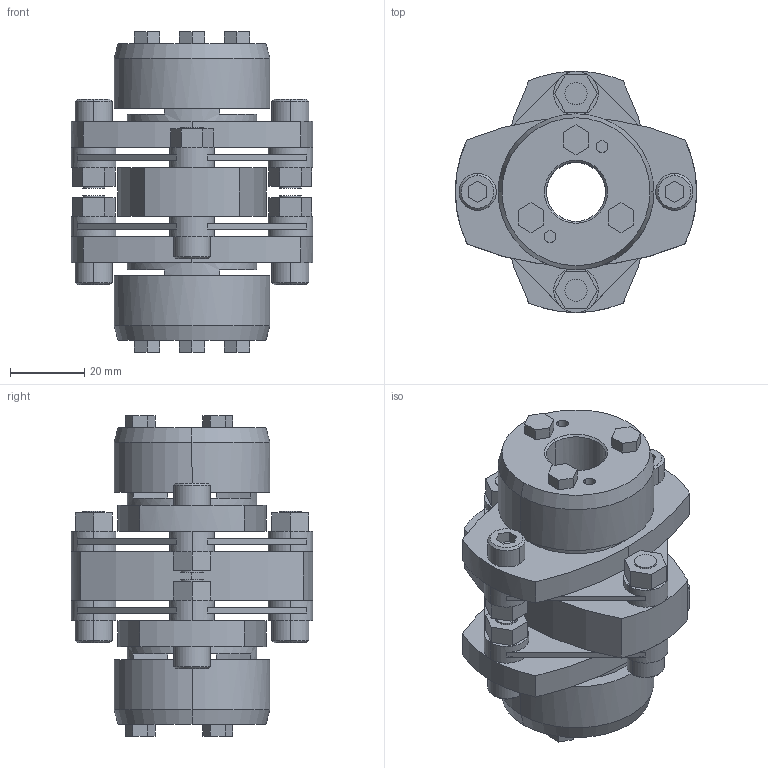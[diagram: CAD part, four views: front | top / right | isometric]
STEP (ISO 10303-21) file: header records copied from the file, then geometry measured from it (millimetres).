
FILE_DESCRIPTION((''),'2;1');
FILE_NAME('LCD-65T7-16×16.stp','2011-08-23T13:37:35',(''),(''),'AutoCAD STEP 2000i','AutoCAD 2000i',', , ');
FILE_SCHEMA(('CONFIG_CONTROL_DESIGN'));
Length unit declared in the file: millimetre
Products named in the file (5): LCD-65T7-15×15; 忣兜1; LC65T7-T015-1; LC65T7-T015; LCD65-ITA
Assembly tree (4 placements, depth 2):
  LCD-65T7-15×15
    忣兜1
    LC65T7-T015-1
    LC65T7-T015
    LCD65-ITA
Bounding box: 65 x 65 x 86.4 mm (x, y, z)
Volume: 109815.9 mm3; surface area: 39656.3 mm2
Topology: 1 solids, 1 shells, 296 faces, 770 edges, 502 vertices
Faces by surface type: plane 176, cylinder 96, cone 24
Entity records: 9303 total; most frequent: DIRECTION 1650, CARTESIAN_POINT 1573, ORIENTED_EDGE 1540, EDGE_CURVE 770, AXIS2_PLACEMENT_3D 579, VERTEX_POINT 502, VECTOR 492, LINE 492
